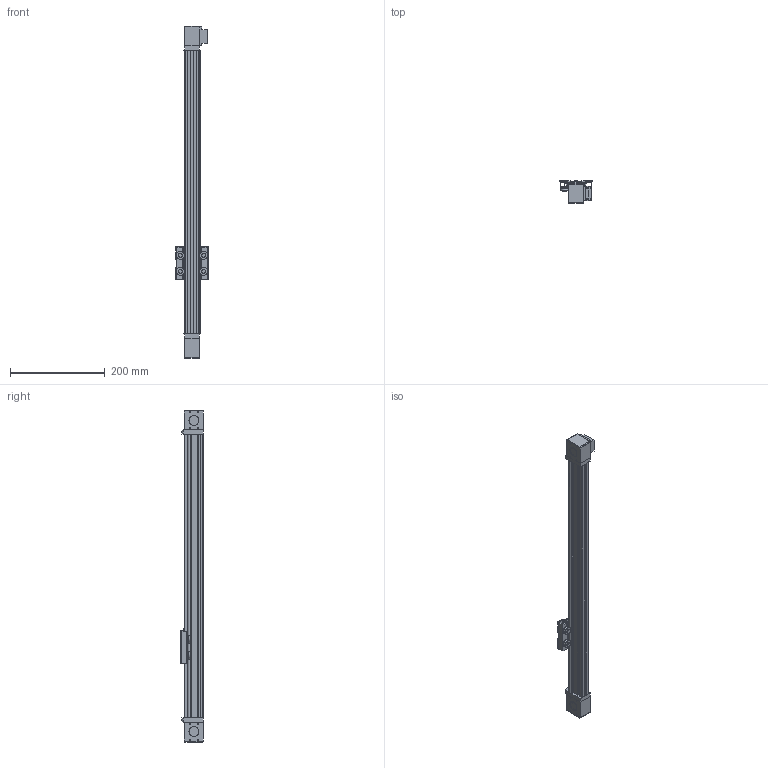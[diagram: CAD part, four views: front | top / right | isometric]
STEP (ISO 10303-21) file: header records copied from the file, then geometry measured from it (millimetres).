
FILE_DESCRIPTION (( 'STEP AP214' ), '1' );
FILE_NAME ('BLS2040A.STEP', '2021-07-12T00:06:31', ( '' ), ( '' ), 'SwSTEP 2.0', 'SolidWorks 2019', '' );
FILE_SCHEMA (( 'AUTOMOTIVE_DESIGN' ));
Length unit declared in the file: millimetre
Products named in the file (7): BLS2040A儌乕僞僇僢僾; BLS2040Aケース5; BLS2040Aケース4; BLS2040Aレール1; BLS2040A_ﾍﾞｱﾘﾝｸﾞｶﾊﾞｰ; BLS2040Aキャリッジ; BLS2040A
Assembly tree (8 placements, depth 2):
  BLS2040A
    BLS2040Aレール1
    BLS2040Aケース5
    BLS2040Aケース4
    BLS2040A儌乕僞僇僢僾
    BLS2040Aキャリッジ
    BLS2040A_ﾍﾞｱﾘﾝｸﾞｶﾊﾞｰ  x3
Bounding box: 68 x 48 x 702 mm (x, y, z)
Volume: 446907.2 mm3; surface area: 299150.2 mm2
Topology: 14 solids, 14 shells, 555 faces, 1385 edges, 914 vertices
Faces by surface type: plane 389, cylinder 144, cone 17, torus 5
Full cylindrical faces by diameter (mm): 2.5 x16, 3 x1, 3.4 x8, 4.134 x4, 4.2 x2, 5.5 x1, 6 x4, 7.9 x4, 8 x9, 8.5 x8, 8.7 x8, 12 x4, 16 x3, 17 x8, 18 x1, 21 x5, 26 x1
Entity records: 16730 total; most frequent: CARTESIAN_POINT 2634, DIRECTION 2604, ORIENTED_EDGE 2438, EDGE_CURVE 1219, LINE 934, VECTOR 934, VERTEX_POINT 865, AXIS2_PLACEMENT_3D 835
